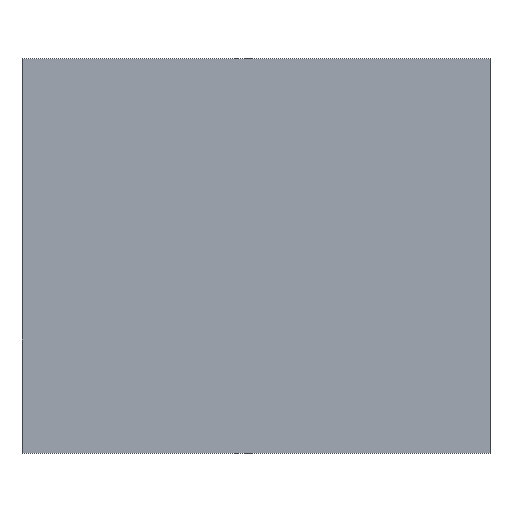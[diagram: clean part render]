
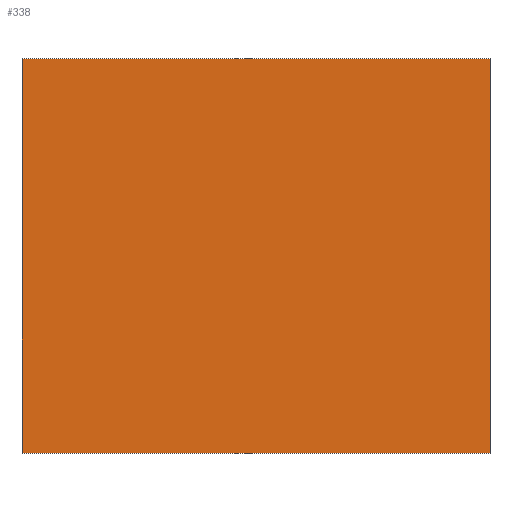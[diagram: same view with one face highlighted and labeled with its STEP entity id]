
A CAD part, top view. The second image highlights one B-rep face of the part: STEP entity #338.
In plain terms, the highlighted planar face has unit normal (0, 0, 1).
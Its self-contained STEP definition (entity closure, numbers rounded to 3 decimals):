
#24 = VERTEX_POINT('',#25);
#25 = CARTESIAN_POINT('',(-10.5,-8.85,5.));
#32 = PLANE('',#33);
#33 = AXIS2_PLACEMENT_3D('',#34,#35,#36);
#34 = CARTESIAN_POINT('',(-10.5,-8.85,0.));
#35 = DIRECTION('',(1.,0.,0.));
#36 = DIRECTION('',(0.,0.,1.));
#44 = PLANE('',#45);
#45 = AXIS2_PLACEMENT_3D('',#46,#47,#48);
#46 = CARTESIAN_POINT('',(-10.5,-8.85,0.));
#47 = DIRECTION('',(0.,1.,0.));
#48 = DIRECTION('',(0.,0.,1.));
#85 = VERTEX_POINT('',#86);
#86 = CARTESIAN_POINT('',(-10.5,8.85,5.));
#100 = PLANE('',#101);
#101 = AXIS2_PLACEMENT_3D('',#102,#103,#104);
#102 = CARTESIAN_POINT('',(-10.5,8.85,0.));
#103 = DIRECTION('',(0.,1.,0.));
#104 = DIRECTION('',(0.,0.,1.));
#112 = EDGE_CURVE('',#24,#85,#113,.T.);
#113 = SURFACE_CURVE('',#114,(#118,#125),.PCURVE_S1.);
#114 = LINE('',#115,#116);
#115 = CARTESIAN_POINT('',(-10.5,-8.85,5.));
#116 = VECTOR('',#117,1.);
#117 = DIRECTION('',(0.,1.,0.));
#118 = PCURVE('',#32,#119);
#119 = DEFINITIONAL_REPRESENTATION('',(#120),#124);
#120 = LINE('',#121,#122);
#121 = CARTESIAN_POINT('',(5.,0.));
#122 = VECTOR('',#123,1.);
#123 = DIRECTION('',(0.,-1.));
#124 = ( GEOMETRIC_REPRESENTATION_CONTEXT(2) 
PARAMETRIC_REPRESENTATION_CONTEXT() REPRESENTATION_CONTEXT('2D SPACE',''
  ) );
#125 = PCURVE('',#126,#131);
#126 = PLANE('',#127);
#127 = AXIS2_PLACEMENT_3D('',#128,#129,#130);
#128 = CARTESIAN_POINT('',(-10.5,-8.85,5.));
#129 = DIRECTION('',(0.,0.,1.));
#130 = DIRECTION('',(1.,0.,0.));
#131 = DEFINITIONAL_REPRESENTATION('',(#132),#136);
#132 = LINE('',#133,#134);
#133 = CARTESIAN_POINT('',(0.,0.));
#134 = VECTOR('',#135,1.);
#135 = DIRECTION('',(0.,1.));
#136 = ( GEOMETRIC_REPRESENTATION_CONTEXT(2) 
PARAMETRIC_REPRESENTATION_CONTEXT() REPRESENTATION_CONTEXT('2D SPACE',''
  ) );
#144 = VERTEX_POINT('',#145);
#145 = CARTESIAN_POINT('',(10.5,-8.85,5.));
#152 = PLANE('',#153);
#153 = AXIS2_PLACEMENT_3D('',#154,#155,#156);
#154 = CARTESIAN_POINT('',(10.5,-8.85,0.));
#155 = DIRECTION('',(1.,0.,0.));
#156 = DIRECTION('',(0.,0.,1.));
#195 = VERTEX_POINT('',#196);
#196 = CARTESIAN_POINT('',(10.5,8.85,5.));
#217 = EDGE_CURVE('',#144,#195,#218,.T.);
#218 = SURFACE_CURVE('',#219,(#223,#230),.PCURVE_S1.);
#219 = LINE('',#220,#221);
#220 = CARTESIAN_POINT('',(10.5,-8.85,5.));
#221 = VECTOR('',#222,1.);
#222 = DIRECTION('',(0.,1.,0.));
#223 = PCURVE('',#152,#224);
#224 = DEFINITIONAL_REPRESENTATION('',(#225),#229);
#225 = LINE('',#226,#227);
#226 = CARTESIAN_POINT('',(5.,0.));
#227 = VECTOR('',#228,1.);
#228 = DIRECTION('',(0.,-1.));
#229 = ( GEOMETRIC_REPRESENTATION_CONTEXT(2) 
PARAMETRIC_REPRESENTATION_CONTEXT() REPRESENTATION_CONTEXT('2D SPACE',''
  ) );
#230 = PCURVE('',#126,#231);
#231 = DEFINITIONAL_REPRESENTATION('',(#232),#236);
#232 = LINE('',#233,#234);
#233 = CARTESIAN_POINT('',(21.,0.));
#234 = VECTOR('',#235,1.);
#235 = DIRECTION('',(0.,1.));
#236 = ( GEOMETRIC_REPRESENTATION_CONTEXT(2) 
PARAMETRIC_REPRESENTATION_CONTEXT() REPRESENTATION_CONTEXT('2D SPACE',''
  ) );
#263 = EDGE_CURVE('',#24,#144,#264,.T.);
#264 = SURFACE_CURVE('',#265,(#269,#276),.PCURVE_S1.);
#265 = LINE('',#266,#267);
#266 = CARTESIAN_POINT('',(-10.5,-8.85,5.));
#267 = VECTOR('',#268,1.);
#268 = DIRECTION('',(1.,0.,0.));
#269 = PCURVE('',#44,#270);
#270 = DEFINITIONAL_REPRESENTATION('',(#271),#275);
#271 = LINE('',#272,#273);
#272 = CARTESIAN_POINT('',(5.,0.));
#273 = VECTOR('',#274,1.);
#274 = DIRECTION('',(0.,1.));
#275 = ( GEOMETRIC_REPRESENTATION_CONTEXT(2) 
PARAMETRIC_REPRESENTATION_CONTEXT() REPRESENTATION_CONTEXT('2D SPACE',''
  ) );
#276 = PCURVE('',#126,#277);
#277 = DEFINITIONAL_REPRESENTATION('',(#278),#282);
#278 = LINE('',#279,#280);
#279 = CARTESIAN_POINT('',(0.,0.));
#280 = VECTOR('',#281,1.);
#281 = DIRECTION('',(1.,0.));
#282 = ( GEOMETRIC_REPRESENTATION_CONTEXT(2) 
PARAMETRIC_REPRESENTATION_CONTEXT() REPRESENTATION_CONTEXT('2D SPACE',''
  ) );
#310 = EDGE_CURVE('',#85,#195,#311,.T.);
#311 = SURFACE_CURVE('',#312,(#316,#323),.PCURVE_S1.);
#312 = LINE('',#313,#314);
#313 = CARTESIAN_POINT('',(-10.5,8.85,5.));
#314 = VECTOR('',#315,1.);
#315 = DIRECTION('',(1.,0.,0.));
#316 = PCURVE('',#100,#317);
#317 = DEFINITIONAL_REPRESENTATION('',(#318),#322);
#318 = LINE('',#319,#320);
#319 = CARTESIAN_POINT('',(5.,0.));
#320 = VECTOR('',#321,1.);
#321 = DIRECTION('',(0.,1.));
#322 = ( GEOMETRIC_REPRESENTATION_CONTEXT(2) 
PARAMETRIC_REPRESENTATION_CONTEXT() REPRESENTATION_CONTEXT('2D SPACE',''
  ) );
#323 = PCURVE('',#126,#324);
#324 = DEFINITIONAL_REPRESENTATION('',(#325),#329);
#325 = LINE('',#326,#327);
#326 = CARTESIAN_POINT('',(0.,17.7));
#327 = VECTOR('',#328,1.);
#328 = DIRECTION('',(1.,0.));
#329 = ( GEOMETRIC_REPRESENTATION_CONTEXT(2) 
PARAMETRIC_REPRESENTATION_CONTEXT() REPRESENTATION_CONTEXT('2D SPACE',''
  ) );
#338 = ADVANCED_FACE('',(#339),#126,.T.);
#339 = FACE_BOUND('',#340,.T.);
#340 = EDGE_LOOP('',(#341,#342,#343,#344));
#341 = ORIENTED_EDGE('',*,*,#112,.F.);
#342 = ORIENTED_EDGE('',*,*,#263,.T.);
#343 = ORIENTED_EDGE('',*,*,#217,.T.);
#344 = ORIENTED_EDGE('',*,*,#310,.F.);
